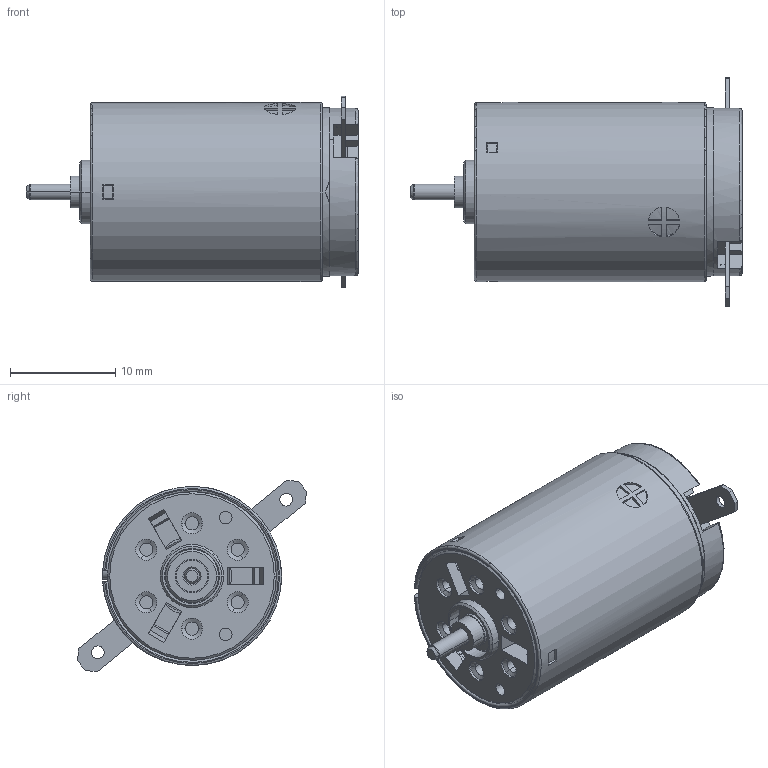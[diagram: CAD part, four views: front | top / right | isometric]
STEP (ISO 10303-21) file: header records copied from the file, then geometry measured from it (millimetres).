
FILE_DESCRIPTION((''),'2;1');
FILE_NAME('214895_RE-MAX17','2016-10-21T',('mmagpetk'),(''),'CREO PARAMETRIC BY PTC INC, 2016050','CREO PARAMETRIC BY PTC INC, 2016050','');
FILE_SCHEMA(('CONFIG_CONTROL_DESIGN'));
Length unit declared in the file: millimetre
Products named in the file (1): 214895_RE-MAX17
Bounding box: 31.5 x 21.74 x 18.16 mm (x, y, z)
Volume: 3298.6 mm3; surface area: 4315.4 mm2
Topology: 1 solids, 1 shells, 383 faces, 1022 edges, 657 vertices
Faces by surface type: plane 175, cylinder 125, cone 56, bspline 17, torus 10
Entity records: 18075 total; most frequent: CARTESIAN_POINT 3142, ORIENTED_EDGE 2040, DIRECTION 1993, PRESENTATION_STYLE_ASSIGNMENT 1197, STYLED_ITEM 1021, CURVE_STYLE 1020, EDGE_CURVE 1020, AXIS2_PLACEMENT_3D 718
